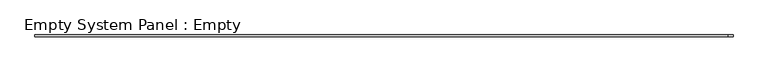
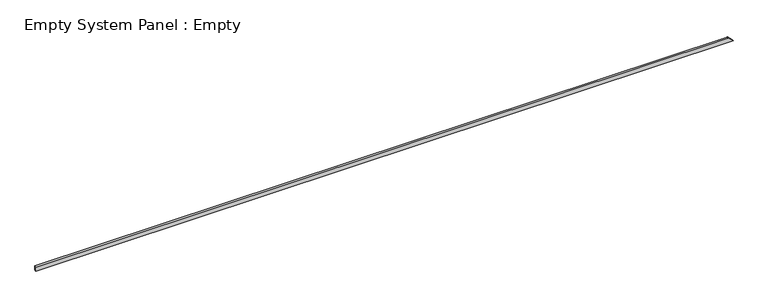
"""IFC4 building model written with IfcOpenShell, lengths in millimetres: plate geometry, Empty System Panel : Empty."""

from ifc_helpers import new_model, si_unit, frame, origin, place, context, project, spatial, polyline, outline, extrude, source, transform, mapped, element, save


def empty_system_panel_empty_8f62b3ce(model_context):
    return source(origin(), model_context, "Body", "SweptSolid", [
        extrude(outline(polyline([(0.0, -18875.0717614), (0.0, 18875.0717614), (268.109795, 18609.9282386), (228.109795, 18609.9282386), (228.109795, -18875.0717614), (0.0, -18875.0717614)])), frame((0.0, -50.0, 0.0), z_axis=(0.0, 1.0, 0.0), x_axis=(0.0, 0.0, 1.0)), (0.0, 0.0, 1.0), 100.0),
    ])


if __name__ == "__main__":
    model = new_model("IFC4")
    model_context = context("Model", 3, world=origin())
    ifc_project = project(units=[si_unit("LENGTHUNIT", "METRE", prefix="MILLI")], contexts=[model_context])
    site = spatial("IfcSite", under=ifc_project)
    building = spatial("IfcBuilding", under=site)
    placement = place(None, origin())
    empty_system_panel_empty_shape = empty_system_panel_empty_8f62b3ce(model_context)
    element("IfcPlate", 1, ObjectType="Empty System Panel : Empty", at=placement, inside=building, context=model_context, shape_type="MappedRepresentation", body=[
        mapped(empty_system_panel_empty_shape, transform((0.0, 0.0, 0.0), x_axis=(1.0, 0.0, 0.0), y_axis=(0.0, 1.0, 0.0), z_axis=(0.0, 0.0, 1.0))),
    ])
    save(model, "model.ifc")
